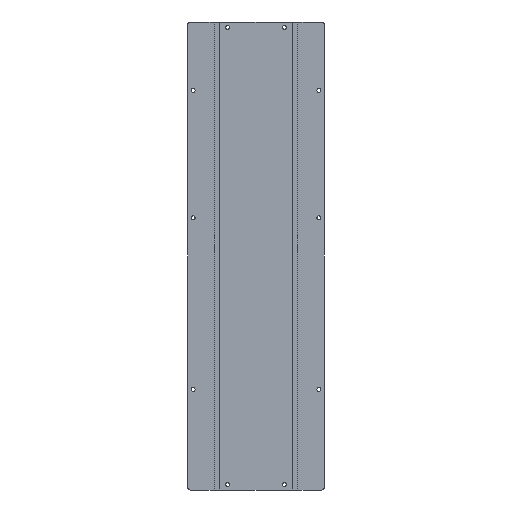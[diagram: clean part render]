
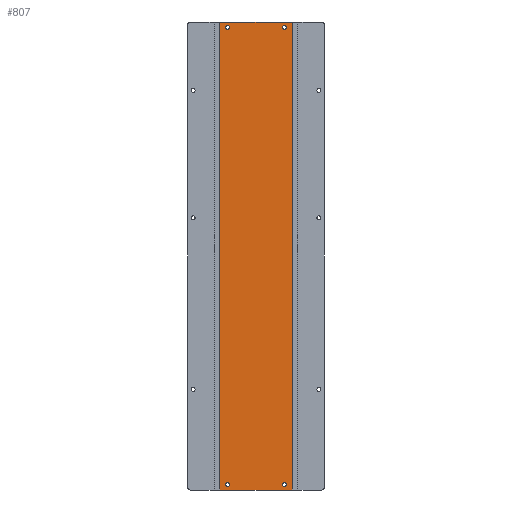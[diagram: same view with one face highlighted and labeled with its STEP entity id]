
A CAD part, front view. The second image highlights one B-rep face of the part: STEP entity #807.
In plain terms, the highlighted planar face has unit normal (0, -1, 0).
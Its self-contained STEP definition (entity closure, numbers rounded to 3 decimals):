
#30=FACE_BOUND('',#178,.T.);
#31=FACE_BOUND('',#179,.T.);
#32=FACE_BOUND('',#180,.T.);
#33=FACE_BOUND('',#181,.T.);
#55=PLANE('',#905);
#115=FACE_OUTER_BOUND('',#177,.T.);
#177=EDGE_LOOP('',(#728,#729,#730,#731));
#178=EDGE_LOOP('',(#732));
#179=EDGE_LOOP('',(#733));
#180=EDGE_LOOP('',(#734));
#181=EDGE_LOOP('',(#735));
#234=LINE('',#1327,#302);
#245=LINE('',#1349,#313);
#247=LINE('',#1353,#315);
#249=LINE('',#1357,#317);
#302=VECTOR('',#1106,10.);
#313=VECTOR('',#1129,10.);
#315=VECTOR('',#1135,10.);
#317=VECTOR('',#1141,10.);
#320=CIRCLE('',#826,2.248);
#329=CIRCLE('',#841,2.248);
#332=CIRCLE('',#846,2.248);
#347=CIRCLE('',#871,2.248);
#358=VERTEX_POINT('',#1152);
#367=VERTEX_POINT('',#1182);
#370=VERTEX_POINT('',#1192);
#385=VERTEX_POINT('',#1242);
#411=VERTEX_POINT('',#1317);
#412=VERTEX_POINT('',#1321);
#416=VERTEX_POINT('',#1341);
#417=VERTEX_POINT('',#1345);
#422=EDGE_CURVE('',#358,#358,#320,.T.);
#437=EDGE_CURVE('',#367,#367,#329,.T.);
#442=EDGE_CURVE('',#370,#370,#332,.T.);
#467=EDGE_CURVE('',#385,#385,#347,.T.);
#508=EDGE_CURVE('',#411,#412,#234,.T.);
#519=EDGE_CURVE('',#416,#417,#245,.T.);
#521=EDGE_CURVE('',#412,#416,#247,.T.);
#523=EDGE_CURVE('',#417,#411,#249,.T.);
#728=ORIENTED_EDGE('',*,*,#508,.T.);
#729=ORIENTED_EDGE('',*,*,#521,.T.);
#730=ORIENTED_EDGE('',*,*,#519,.T.);
#731=ORIENTED_EDGE('',*,*,#523,.T.);
#732=ORIENTED_EDGE('',*,*,#422,.T.);
#733=ORIENTED_EDGE('',*,*,#437,.T.);
#734=ORIENTED_EDGE('',*,*,#442,.T.);
#735=ORIENTED_EDGE('',*,*,#467,.T.);
#807=ADVANCED_FACE('',(#115,#30,#31,#32,#33),#55,.T.);
#826=AXIS2_PLACEMENT_3D('',#1154,#918,#919);
#841=AXIS2_PLACEMENT_3D('',#1184,#954,#955);
#846=AXIS2_PLACEMENT_3D('',#1194,#966,#967);
#871=AXIS2_PLACEMENT_3D('',#1244,#1026,#1027);
#905=AXIS2_PLACEMENT_3D('',#1358,#1142,#1143);
#918=DIRECTION('center_axis',(0.,1.,0.));
#919=DIRECTION('ref_axis',(0.,0.,1.));
#954=DIRECTION('center_axis',(0.,1.,0.));
#955=DIRECTION('ref_axis',(0.,0.,1.));
#966=DIRECTION('center_axis',(0.,1.,0.));
#967=DIRECTION('ref_axis',(0.,0.,1.));
#1026=DIRECTION('center_axis',(0.,1.,0.));
#1027=DIRECTION('ref_axis',(0.,0.,1.));
#1106=DIRECTION('',(0.,0.,-1.));
#1129=DIRECTION('',(0.,0.,1.));
#1135=DIRECTION('',(1.,0.,0.));
#1141=DIRECTION('',(-1.,0.,0.));
#1142=DIRECTION('center_axis',(0.,-1.,0.));
#1143=DIRECTION('ref_axis',(0.,0.,-1.));
#1152=CARTESIAN_POINT('',(42.,-3.,34.402));
#1154=CARTESIAN_POINT('Origin',(42.,-3.,36.65));
#1182=CARTESIAN_POINT('',(42.,-3.,-503.898));
#1184=CARTESIAN_POINT('Origin',(42.,-3.,-501.65));
#1192=CARTESIAN_POINT('',(-25.,-3.,-503.898));
#1194=CARTESIAN_POINT('Origin',(-25.,-3.,-501.65));
#1242=CARTESIAN_POINT('',(-25.,-3.,34.402));
#1244=CARTESIAN_POINT('Origin',(-25.,-3.,36.65));
#1317=CARTESIAN_POINT('',(-34.,-3.,43.));
#1321=CARTESIAN_POINT('',(-34.,-3.,-508.));
#1327=CARTESIAN_POINT('',(-34.,-3.,-94.75));
#1341=CARTESIAN_POINT('',(51.,-3.,-508.));
#1345=CARTESIAN_POINT('',(51.,-3.,43.));
#1349=CARTESIAN_POINT('',(51.,-3.,-370.25));
#1353=CARTESIAN_POINT('',(-40.,-3.,-508.));
#1357=CARTESIAN_POINT('',(57.,-3.,43.));
#1358=CARTESIAN_POINT('Origin',(8.5,-3.,-232.5));
